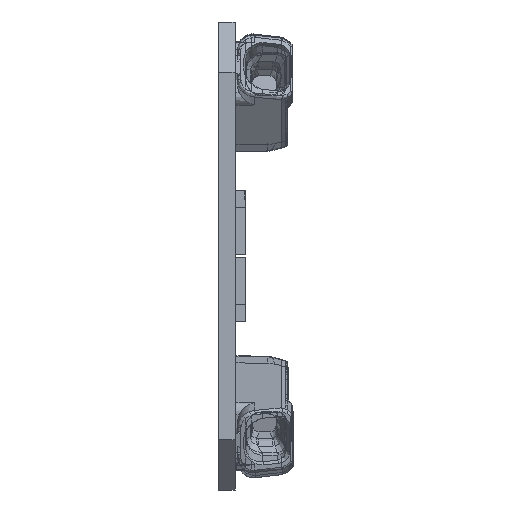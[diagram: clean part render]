
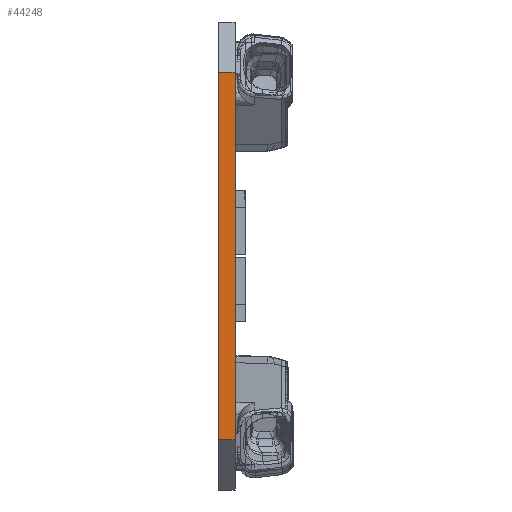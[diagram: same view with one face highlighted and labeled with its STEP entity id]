
A CAD part, left-side view. The second image highlights one B-rep face of the part: STEP entity #44248.
In plain terms, the highlighted planar face has unit normal (-1, 0, 0).
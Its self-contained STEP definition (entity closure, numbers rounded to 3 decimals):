
#2369=ORIENTED_EDGE('',*,*,#11944,.F.);
#2370=ORIENTED_EDGE('',*,*,#12101,.F.);
#2371=ORIENTED_EDGE('',*,*,#12060,.T.);
#2372=ORIENTED_EDGE('',*,*,#12102,.T.);
#11944=EDGE_CURVE('',#16842,#16835,#19988,.T.);
#12060=EDGE_CURVE('',#16947,#16945,#20062,.T.);
#12101=EDGE_CURVE('',#16947,#16842,#20087,.T.);
#12102=EDGE_CURVE('',#16945,#16835,#20088,.T.);
#16835=VERTEX_POINT('',#56893);
#16842=VERTEX_POINT('',#56906);
#16945=VERTEX_POINT('',#57226);
#16947=VERTEX_POINT('',#57229);
#19988=LINE('',#56907,#23616);
#20062=LINE('',#57228,#23690);
#20087=LINE('',#57313,#23715);
#20088=LINE('',#57314,#23716);
#23616=VECTOR('',#48611,1000.);
#23690=VECTOR('',#48791,1000.);
#23715=VECTOR('',#48876,1000.);
#23716=VECTOR('',#48877,1000.);
#27130=EDGE_LOOP('',(#2369,#2370,#2371,#2372));
#29236=FACE_BOUND('',#27130,.T.);
#31224=PLANE('',#46223);
#44248=ADVANCED_FACE('',(#29236),#31224,.T.);
#46223=AXIS2_PLACEMENT_3D('',#57312,#48874,#48875);
#48611=DIRECTION('',(0.,0.,-1.));
#48791=DIRECTION('',(0.,0.,-1.));
#48874=DIRECTION('',(-1.,0.,0.));
#48875=DIRECTION('',(0.,0.,1.));
#48876=DIRECTION('',(0.,-1.,0.));
#48877=DIRECTION('',(0.,-1.,0.));
#56893=CARTESIAN_POINT('',(-279.5,0.,-11.));
#56906=CARTESIAN_POINT('',(-279.5,0.,11.));
#56907=CARTESIAN_POINT('',(-279.5,0.,11.));
#57226=CARTESIAN_POINT('',(-279.5,1.,-11.));
#57228=CARTESIAN_POINT('',(-279.5,1.,11.));
#57229=CARTESIAN_POINT('',(-279.5,1.,11.));
#57312=CARTESIAN_POINT('',(-279.5,1.,11.));
#57313=CARTESIAN_POINT('',(-279.5,1.,11.));
#57314=CARTESIAN_POINT('',(-279.5,1.,-11.));
